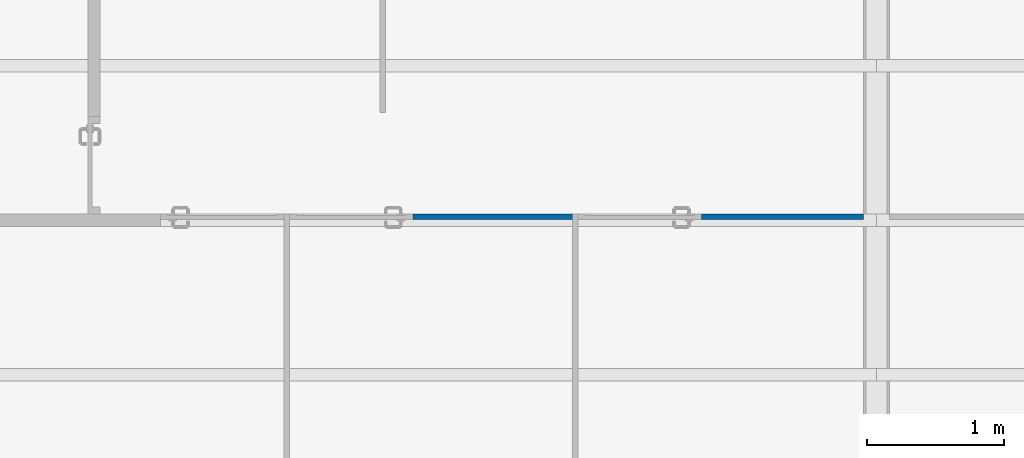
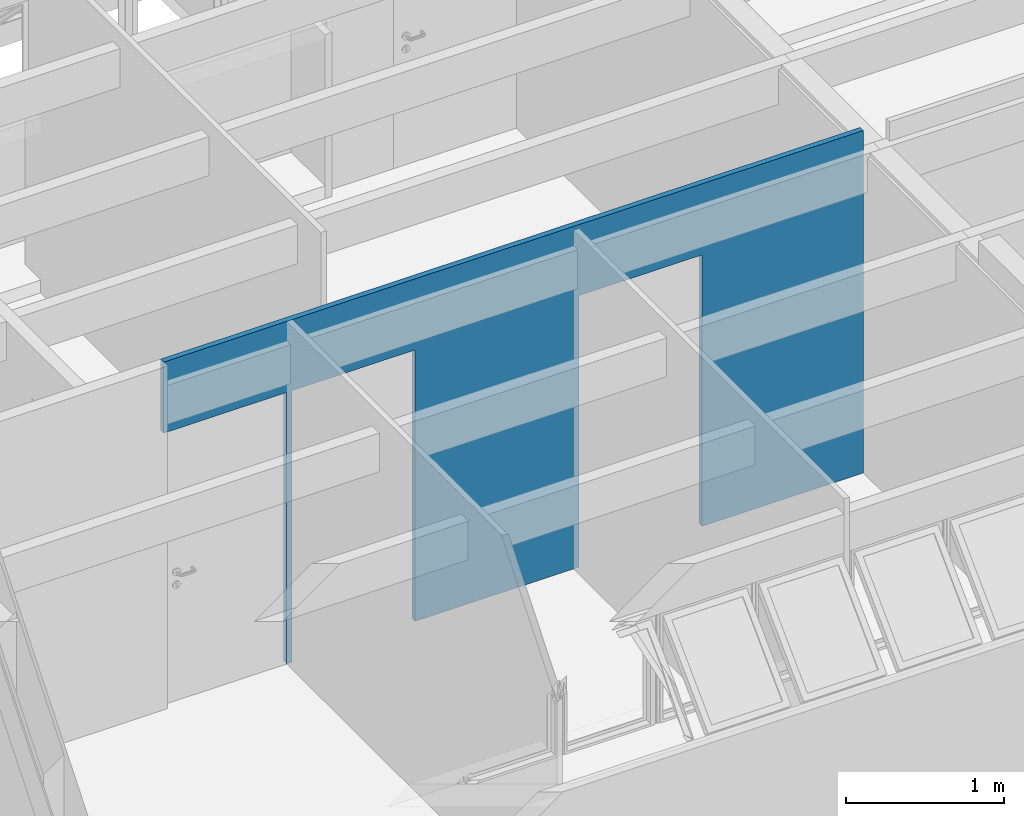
# One storey, part 19 of 41: 1 wall, 3 openings.
"""IFC4 building model written with IfcOpenShell, lengths in millimetres."""

from ifc_helpers import new_model, entity, si_unit, converted_unit, derived_unit, direction, frame, origin_with_axes, origin_2d_with_axis, place, context, subcontext, project, spatial, line, indexed_curve, rectangle, outline, extrude, material, layer, layer_set, layer_usage, type_object, element, save


model = new_model("IFC4")

# Units and contexts
model_context = context("Model", 3, precision=0.01, world=origin_with_axes(), true_north=direction((0.0, 1.0)))
body_context = subcontext(model_context, "Body", "Model", "MODEL_VIEW")
ifc_project = project(units=[si_unit("LENGTHUNIT", "METRE", prefix="MILLI"), si_unit("AREAUNIT", "SQUARE_METRE"), si_unit("VOLUMEUNIT", "CUBIC_METRE"), converted_unit("PLANEANGLEUNIT", "DEGREE", entity("IfcPlaneAngleMeasure", 0.0174532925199), si_unit("PLANEANGLEUNIT", "RADIAN"), dimensions=[0, 0, 0, 0, 0, 0, 0]), converted_unit("TIMEUNIT", "Year", entity("IfcTimeMeasure", 31556926.0), si_unit("TIMEUNIT", "SECOND"), dimensions=[0, 0, 1, 0, 0, 0, 0]), si_unit("MASSUNIT", "GRAM", prefix="KILO"), si_unit("THERMODYNAMICTEMPERATUREUNIT", "DEGREE_CELSIUS"), si_unit("LUMINOUSINTENSITYUNIT", "LUMEN"), si_unit("ENERGYUNIT", "JOULE", prefix="MEGA"), derived_unit("THERMALCONDUCTANCEUNIT", [(si_unit("POWERUNIT", "WATT"), 1), (si_unit("LENGTHUNIT", "METRE"), -1), (si_unit("THERMODYNAMICTEMPERATUREUNIT", "KELVIN"), -1)]), derived_unit("SPECIFICHEATCAPACITYUNIT", [(si_unit("ENERGYUNIT", "JOULE"), 1), (si_unit("MASSUNIT", "GRAM", prefix="KILO"), -1), (si_unit("THERMODYNAMICTEMPERATUREUNIT", "KELVIN"), -1)]), derived_unit("MASSDENSITYUNIT", [(si_unit("MASSUNIT", "GRAM", prefix="KILO"), 1), (si_unit("VOLUMEUNIT", "CUBIC_METRE"), -1)])], contexts=[model_context])

# Site, building, storey
site_placement = place(None, origin_with_axes())
site = spatial("IfcSite", under=ifc_project, at=site_placement, Name="Local", CompositionType="ELEMENT")
building_placement = place(site_placement, origin_with_axes())
building = spatial("IfcBuilding", under=site, at=building_placement, Name="Construção", CompositionType="ELEMENT")
storey_placement = place(building_placement, frame((0.0, 0.0, 2650.0), z_axis=(0.0, 0.0, 1.0), x_axis=(1.0, 0.0, 0.0)))
storey = spatial("IfcBuildingStorey", under=building, at=storey_placement, Name="Segundo Pavimento", CompositionType="ELEMENT", Elevation=2650.0)

# Wall, openings
ifc_material = material(Name="GENÉRICO - VEDAÇÃO EXTERNA")
ifc_layer = layer(ifc_material, 40.0, ventilated="UNKNOWN", Name="GENÉRICO - VEDAÇÃO EXTERNA")
ifc_layer_set = layer_set([ifc_layer], Name="GENÉRICO - VEDAÇÃO EXTERNA 40")
ifc_layer_usage = layer_usage(ifc_layer_set, "AXIS2", "NEGATIVE", 0.0)
wall_type = type_object("IfcWallType", Name="GENÉRICO - VEDAÇÃO EXTERNA 40", PredefinedType="NOTDEFINED")
wall_placement = place(storey_placement, frame((2170.0, 3765.2195667, 0.0), z_axis=(0.0, 0.0, 1.0), x_axis=(0.99999999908, -4.28841203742e-05, 0.0)))
wall = element("IfcWall", 1, at=wall_placement, inside=storey, type_object=wall_type, material=ifc_layer_usage, Name="APTO5-PAREDE-006", PredefinedType="NOTDEFINED", context=body_context, shape_type="SweptSolid", body=[
    extrude(outline(indexed_curve([(0.000857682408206, -40.0), (5120.00000471, -40.0), (5120.00000471, 0.0), (0.0, 0.0)], segments=[line(1, 2, 3, 4, 1)])), origin_with_axes(), (0.0, 0.0, 1.0), 2650.0),
])
opening_1_placement = place(wall_placement, frame((1390.00000471, 0.0, 0.0), z_axis=(0.0, 0.0, 1.0), x_axis=(1.0, 0.0, 0.0)))
element("IfcOpeningElement", 2, at=opening_1_placement, cuts=wall, Name="APTO5-PORTA-002", context=body_context, shape_type="SweptSolid", body=[
    extrude(rectangle(XDim=900.0, YDim=2100.0, at=origin_2d_with_axis()), frame((0.0, -40.0, 1050.0), z_axis=(0.0, 1.0, 0.0), x_axis=(-1.0, 0.0, 0.0)), (0.0, 0.0, 1.0), 120.0),
])
opening_2_placement = place(wall_placement, frame((450.000004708, 0.0, 0.0), z_axis=(0.0, 0.0, 1.0), x_axis=(1.0, 0.0, 0.0)))
element("IfcOpeningElement", 3, at=opening_2_placement, cuts=wall, Name="APTO5-PORTA-001", context=body_context, shape_type="SweptSolid", body=[
    extrude(rectangle(XDim=900.0, YDim=2100.0, at=origin_2d_with_axis()), frame((0.0, -40.0, 1050.0), z_axis=(0.0, -1.0, 0.0), x_axis=(1.0, 0.0, 0.0)), (0.0, 0.0, -1.0), 120.0),
])
opening_3_placement = place(wall_placement, frame((3490.00000471, 0.0, 0.0), z_axis=(0.0, 0.0, 1.0), x_axis=(1.0, 0.0, 0.0)))
element("IfcOpeningElement", 4, at=opening_3_placement, cuts=wall, Name="APTO5-PORTA-000", context=body_context, shape_type="SweptSolid", body=[
    extrude(rectangle(XDim=900.0, YDim=2100.0, at=origin_2d_with_axis()), frame((0.0, -40.0, 1050.0), z_axis=(0.0, 1.0, 0.0), x_axis=(-1.0, 0.0, 0.0)), (0.0, 0.0, 1.0), 120.0),
])

save(model, "model.ifc")
